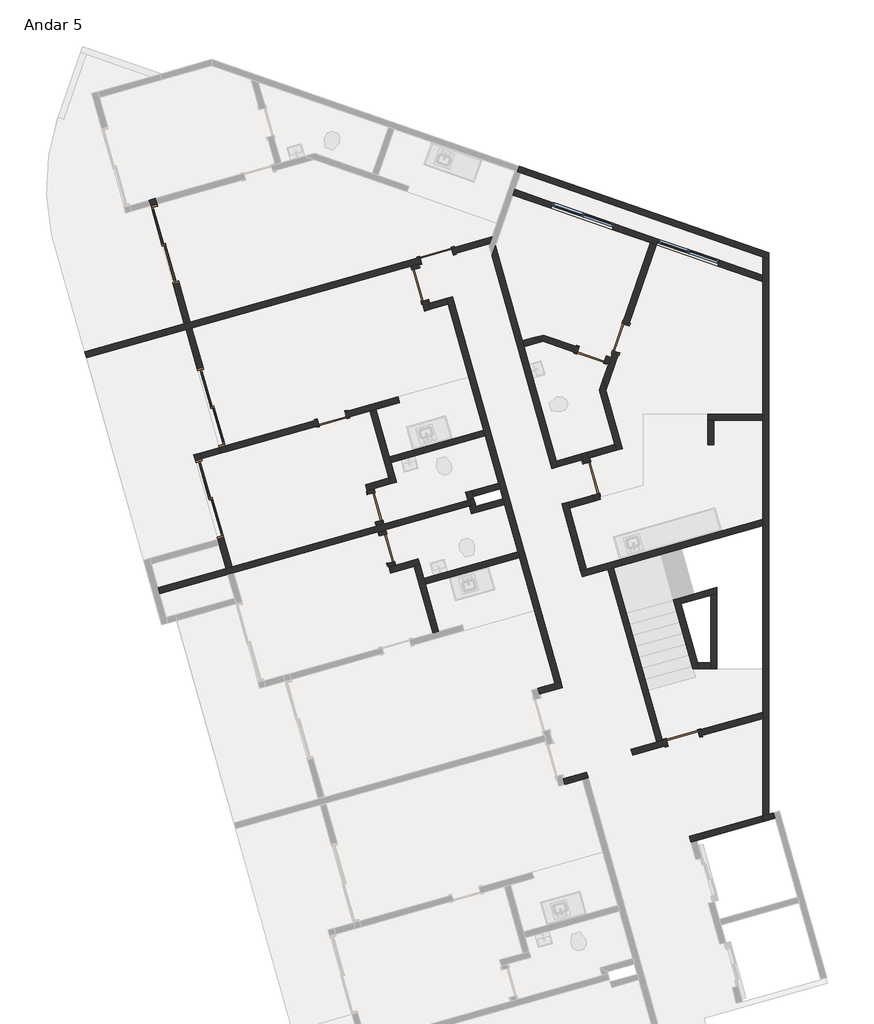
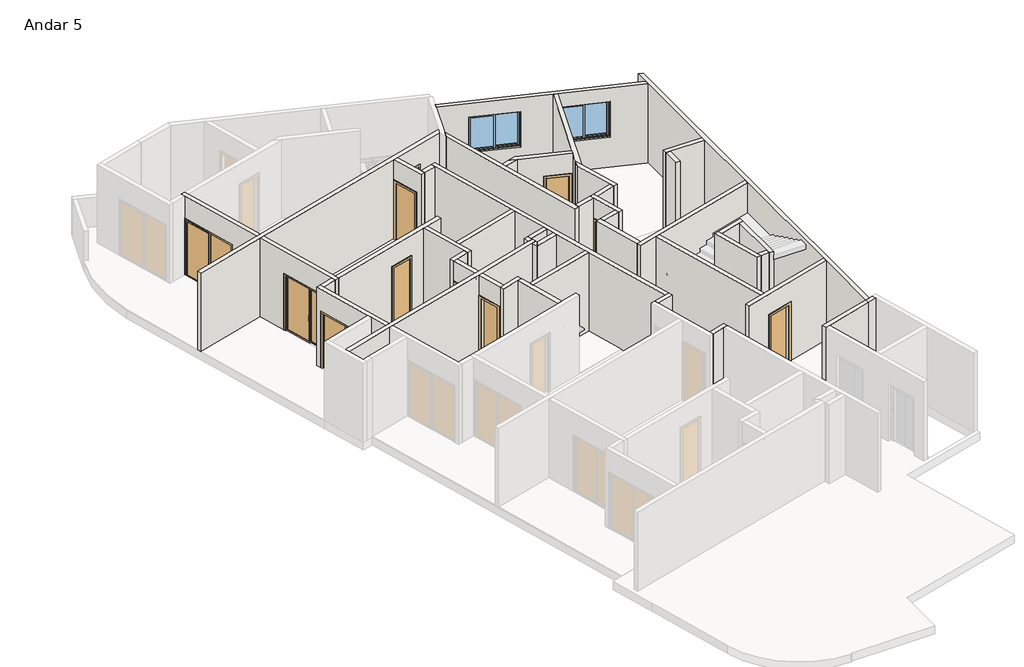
# One storey, part 2 of 3: 48 walls, 12 doors, 2 windows.
"""IFC4 building model written with IfcOpenShell, lengths in millimetres."""

from ifc_helpers import new_model, si_unit, frame, origin, place, context, project, spatial, polyline, outline, extrude, faceted_brep, transform, mapped, element, save
from components import p2_80cm_9d4be4ef, p2_80cm_083652d6, p3_70cm_ef4d15e3, p3_70cm_0a698c7c, p4_correr_200cm_eaaa0877, jx_160cm_e9e36a0c

model = new_model("IFC4")

# Units and contexts
model_context = context("Model", 3, world=origin())
ifc_project = project(units=[si_unit("LENGTHUNIT", "METRE", prefix="MILLI")], contexts=[model_context])

# Site, building, storey
site = spatial("IfcSite", under=ifc_project)
building = spatial("IfcBuilding", under=site)
storey = spatial("IfcBuildingStorey", under=building, Name="Andar 5", Elevation=65250.0)

# Doors
placement = place(None, origin())
p2_80cm_shape = p2_80cm_9d4be4ef(model_context)
element("IfcDoor", 1, ObjectType="M_Folha única1 : P2 - 80CM", at=placement, inside=storey, context=model_context, shape_type="MappedRepresentation", body=[
    mapped(p2_80cm_shape, transform((-83145.1128896, 30941.0402894, 65250.0), x_axis=(-0.9623628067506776, -0.2717679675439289, 0.0), y_axis=(0.2717679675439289, -0.9623628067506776, 0.0), z_axis=(0.0, 0.0, 1.0))),
])
element("IfcDoor", 2, ObjectType="M_Folha única1 : P2 - 80CM", at=placement, inside=storey, context=model_context, shape_type="MappedRepresentation", body=[
    mapped(p2_80cm_shape, transform((-79349.4097406, 25479.1041247, 65250.0), x_axis=(-0.27176796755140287, 0.962362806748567, 0.0), y_axis=(-0.962362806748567, -0.27176796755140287, 0.0), z_axis=(0.0, 0.0, 1.0))),
])
p2_80cm_2_shape = p2_80cm_083652d6(model_context)
element("IfcDoor", 3, ObjectType="M_Folha única1 : P2 - 80CM", at=placement, inside=storey, context=model_context, shape_type="MappedRepresentation", body=[
    mapped(p2_80cm_2_shape, transform((-83542.2049222, 30231.4150941, 65250.0), x_axis=(-0.2717679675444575, 0.9623628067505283, 0.0), y_axis=(-0.9623628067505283, -0.2717679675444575, 0.0), z_axis=(0.0, 0.0, 1.0))),
])
p3_70cm_shape = p3_70cm_ef4d15e3(model_context)
element("IfcDoor", 4, ObjectType="M_Folha única1 : P3 - 70CM", at=placement, inside=storey, context=model_context, shape_type="MappedRepresentation", body=[
    mapped(p3_70cm_shape, transform((-84650.97864, 24774.7108835, 65250.0), x_axis=(0.2717679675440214, -0.9623628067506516, 0.0), y_axis=(0.9623628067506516, 0.2717679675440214, 0.0), z_axis=(0.0, 0.0, 1.0))),
])
p3_70cm_2_shape = p3_70cm_0a698c7c(model_context)
element("IfcDoor", 5, ObjectType="M_Folha única1 : P3 - 70CM", at=placement, inside=storey, context=model_context, shape_type="MappedRepresentation", body=[
    mapped(p3_70cm_2_shape, transform((-84365.6222741, 23764.2299364, 65250.0), x_axis=(-0.2717679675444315, 0.9623628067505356, 0.0), y_axis=(-0.9623628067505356, -0.2717679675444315, 0.0), z_axis=(0.0, 0.0, 1.0))),
])
element("IfcDoor", 6, ObjectType="M_Folha única1 : P3 - 70CM", at=placement, inside=storey, context=model_context, shape_type="MappedRepresentation", body=[
    mapped(p3_70cm_2_shape, transform((-85705.4317558, 26944.8211633, 65250.0), x_axis=(0.9623628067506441, 0.2717679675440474, 0.0), y_axis=(-0.2717679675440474, 0.9623628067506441, 0.0), z_axis=(0.0, 0.0, 1.0))),
])
element("IfcDoor", 7, ObjectType="M_Folha única1 : P3 - 70CM", at=placement, inside=storey, context=model_context, shape_type="MappedRepresentation", body=[
    mapped(p3_70cm_2_shape, transform((-79346.1223746, 28509.6973665, 65250.0), x_axis=(0.9449109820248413, -0.32732741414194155, 0.0), y_axis=(0.32732741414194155, 0.9449109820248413, 0.0), z_axis=(0.0, 0.0, 1.0))),
])
element("IfcDoor", 8, ObjectType="M_Folha única1 : P3 - 70CM", at=placement, inside=storey, context=model_context, shape_type="MappedRepresentation", body=[
    mapped(p3_70cm_2_shape, transform((-78626.5662556, 28921.8732895, 65250.0), x_axis=(-0.32732741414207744, -0.9449109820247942, 0.0), y_axis=(0.9449109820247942, -0.32732741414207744, 0.0), z_axis=(0.0, 0.0, 1.0))),
])
p4_correr_200cm_shape = p4_correr_200cm_eaaa0877(model_context)
element("IfcDoor", 9, ObjectType="Porta de correr dupla envidraçada sem revestimento : P4 - CORRER - 200CM", at=placement, inside=storey, context=model_context, shape_type="MappedRepresentation", body=[
    mapped(p4_correr_200cm_shape, transform((-89799.7974026, 31217.9316171, 65250.0), x_axis=(0.27176796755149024, -0.9623628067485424, 0.0), y_axis=(0.9623628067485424, 0.27176796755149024, 0.0), z_axis=(0.0, 0.0, 1.0))),
])
element("IfcDoor", 10, ObjectType="Porta de correr dupla envidraçada sem revestimento : P4 - CORRER - 200CM", at=placement, inside=storey, context=model_context, shape_type="MappedRepresentation", body=[
    mapped(p4_correr_200cm_shape, transform((-88671.9603372, 27224.125969, 65250.0), x_axis=(-0.27176796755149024, 0.9623628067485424, 0.0), y_axis=(-0.9623628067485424, -0.27176796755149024, 0.0), z_axis=(0.0, 0.0, 1.0))),
])
element("IfcDoor", 11, ObjectType="Porta de correr dupla envidraçada sem revestimento : P4 - CORRER - 200CM", at=placement, inside=storey, context=model_context, shape_type="MappedRepresentation", body=[
    mapped(p4_correr_200cm_shape, transform((-88709.3738038, 24979.4758572, 65250.0), x_axis=(-0.2717679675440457, 0.9623628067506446, 0.0), y_axis=(-0.9623628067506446, -0.2717679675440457, 0.0), z_axis=(0.0, 0.0, 1.0))),
])
element("IfcDoor", 12, ObjectType="M_Folha única1 : PCF1 - 80CM", at=placement, inside=storey, context=model_context, shape_type="MappedRepresentation", body=[
    mapped(p2_80cm_shape, transform((-77103.5502958, 19127.1105693, 65250.0), x_axis=(-0.9623628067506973, -0.2717679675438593, 0.0), y_axis=(0.2717679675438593, -0.9623628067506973, 0.0), z_axis=(0.0, 0.0, 1.0))),
])

# Walls
element("IfcWall", 13, ObjectType="Básica .15 -  Interna", at=placement, inside=storey, context=model_context, shape_type="Brep", body=[
    faceted_brep([(-82901.0804648, 29892.9118737, 65250.0), (-82860.3152697, 29748.5574527, 65250.0), (-81990.6577736, 26668.9964711, 65250.0), (-81949.8925784, 26524.6420501, 65250.0), (-81623.7710174, 25369.806682, 65250.0), (-81583.0058223, 25225.452261, 65250.0), (-81515.0638304, 24984.8615593, 65250.0), (-81474.2986352, 24840.5071383, 65250.0), (-81148.1770742, 23685.6717702, 65250.0), (-81107.4118791, 23541.3173492, 65250.0), (-80237.7543829, 20461.7563676, 65250.0), (-80237.7543829, 20461.7563676, 68150.0), (-81107.4118791, 23541.3173492, 68150.0), (-81148.1770742, 23685.6717702, 68150.0), (-81474.2986352, 24840.5071383, 68150.0), (-81515.0638304, 24984.8615593, 68150.0), (-81583.0058223, 25225.452261, 68150.0), (-81623.7710174, 25369.806682, 68150.0), (-81949.8925784, 26524.6420501, 68150.0), (-81990.6577736, 26668.9964711, 68150.0), (-82860.3152697, 29748.5574527, 68150.0), (-82901.0804648, 29892.9118737, 68150.0), (-82756.7260438, 29933.6770689, 65250.0), (-82756.7260438, 29933.6770689, 68150.0), (-80093.3999619, 20502.5215627, 68150.0), (-80093.3999619, 20502.5215627, 65250.0)], [[[0, 1, 2, 3, 4, 5, 6, 7, 8, 9, 10, 11, 12, 13, 14, 15, 16, 17, 18, 19, 20, 21]], [[22, 23, 24, 25]], [[10, 9, 8, 7, 6, 5, 4, 3, 2, 1, 0, 22, 25]], [[21, 20, 19, 18, 17, 16, 15, 14, 13, 12, 11, 24, 23]], [[0, 21, 23, 22]], [[11, 10, 25, 24]]]),
])
element("IfcWall", 14, ObjectType="Básica .15 -  Interna", at=placement, inside=storey, context=model_context, shape_type="Brep", body=[
    faceted_brep([(-83750.2661164, 30692.2138999, 65250.0), (-83723.0893197, 30595.9776193, 65250.0), (-83723.0893197, 30595.9776193, 67350.0), (-83505.6749457, 29826.0873739, 67350.0), (-83505.6749457, 29826.0873739, 65250.0), (-83437.7329538, 29585.4966722, 65250.0), (-83437.7329538, 29585.4966722, 68150.0), (-83750.2661164, 30692.2138999, 68150.0), (-83578.7348987, 30636.7428144, 67350.0), (-83578.7348987, 30636.7428144, 65250.0), (-83605.9116954, 30732.9790951, 65250.0), (-83605.9116954, 30732.9790951, 68150.0), (-83334.1437279, 29770.6162883, 68150.0), (-83293.3785328, 29626.2618673, 68150.0), (-83293.3785328, 29626.2618673, 65250.0), (-83334.1437279, 29770.6162883, 65250.0), (-83361.3205246, 29866.852569, 65250.0), (-83361.3205246, 29866.852569, 67350.0)], [[[0, 1, 2, 3, 4, 5, 6, 7]], [[8, 9, 10, 11, 12, 13, 14, 15, 16, 17]], [[10, 9, 1, 0]], [[16, 15, 14, 5, 4]], [[7, 6, 13, 12, 11]], [[6, 5, 14, 13]], [[0, 7, 11, 10]], [[2, 1, 9, 8]], [[3, 2, 8, 17]], [[4, 3, 17, 16]]]),
])
element("IfcWall", 15, ObjectType="Básica .15 -  Interna", at=placement, inside=storey, context=model_context, shape_type="SweptSolid", body=[
    extrude(outline(polyline([(-82860.3152697, 29748.5574527), (-83293.3785328, 29626.2618673), (-83334.1437279, 29770.6162883), (-82901.0804648, 29892.9118737), (-82860.3152697, 29748.5574527)])), frame((0.0, 0.0, 65250.0), z_axis=(0.0, 0.0, 1.0), x_axis=(1.0, 0.0, 0.0)), (0.0, 0.0, 1.0), 2900.0),
])
element("IfcWall", 16, ObjectType="Básica .15 -  Interna", at=placement, inside=storey, context=model_context, shape_type="Brep", body=[
    faceted_brep([(-80093.3999619, 20502.5215627, 65250.0), (-80237.7543829, 20461.7563676, 65250.0), (-80670.817646, 20339.4607822, 65250.0), (-80670.817646, 20339.4607822, 68150.0), (-80237.7543829, 20461.7563676, 68150.0), (-80093.3999619, 20502.5215627, 68150.0), (-80052.6347668, 20358.1671417, 65250.0), (-80052.6347668, 20358.1671417, 68150.0), (-80630.0524508, 20195.1063612, 68150.0), (-80630.0524508, 20195.1063612, 65250.0)], [[[0, 1, 2, 3, 4, 5]], [[6, 7, 8, 9]], [[2, 1, 0, 6, 9]], [[5, 4, 3, 8, 7]], [[3, 2, 9, 8]], [[0, 5, 7, 6]]]),
])
element("IfcWall", 17, ObjectType="Básica .15 -  Interna", at=placement, inside=storey, context=model_context, shape_type="Brep", body=[
    faceted_brep([(-80004.9861255, 17981.6719056, 65250.0), (-79571.9228624, 18103.967491, 65250.0), (-79427.5684414, 18144.7326862, 65250.0), (-79427.5684414, 18144.7326862, 68150.0), (-79571.9228624, 18103.967491, 68150.0), (-80004.9861255, 17981.6719056, 68150.0), (-80045.7513206, 18126.0263266, 65250.0), (-80045.7513206, 18126.0263266, 68150.0), (-79468.3336366, 18289.0871072, 68150.0), (-79468.3336366, 18289.0871072, 65250.0)], [[[0, 1, 2, 3, 4, 5]], [[6, 7, 8, 9]], [[2, 1, 0, 6, 9]], [[5, 4, 3, 8, 7]], [[3, 2, 9, 8]], [[0, 5, 7, 6]]]),
])
element("IfcWall", 18, ObjectType="Básica .15 -  Interna", at=placement, inside=storey, context=model_context, shape_type="Brep", body=[
    faceted_brep([(-88305.9570711, 23274.9583478, 68150.0), (-88469.0178517, 23852.3760319, 68150.0), (-88509.7830468, 23996.7304529, 68150.0), (-89094.084177, 26065.8104874, 68150.0), (-89094.084177, 26065.8104874, 65250.0), (-89053.3189819, 25921.4560664, 65250.0), (-89053.3189819, 25921.4560664, 67350.0), (-88509.7830468, 23996.7304529, 67350.0), (-88509.7830468, 23996.7304529, 65250.0), (-88469.0178517, 23852.3760319, 65250.0), (-88305.9570711, 23274.9583478, 65250.0), (-88949.729756, 26106.5756825, 68150.0), (-88908.9645609, 25962.2212615, 68150.0), (-88161.6026501, 23315.723543, 68150.0), (-88161.6026501, 23315.723543, 65250.0), (-88365.4286258, 24037.495648, 65250.0), (-88365.4286258, 24037.495648, 67350.0), (-88908.9645609, 25962.2212615, 67350.0), (-88908.9645609, 25962.2212615, 65250.0), (-88949.729756, 26106.5756825, 65250.0)], [[[0, 1, 2, 3, 4, 5, 6, 7, 8, 9, 10]], [[11, 12, 13, 14, 15, 16, 17, 18, 19]], [[4, 19, 18, 5]], [[14, 10, 9, 8, 15]], [[3, 2, 1, 0, 13, 12, 11]], [[4, 3, 11, 19]], [[0, 10, 14, 13]], [[17, 6, 5, 18]], [[6, 17, 16, 7]], [[7, 16, 15, 8]]]),
])
element("IfcWall", 19, ObjectType="Básica .15 -  Interna", at=placement, inside=storey, context=model_context, shape_type="Brep", body=[
    faceted_brep([(-89143.3190618, 29169.2341801, 68150.0), (-88328.0151592, 26282.1457598, 68150.0), (-88287.249964, 26137.7913388, 68150.0), (-88287.249964, 26137.7913388, 65250.0), (-88328.0151592, 26282.1457598, 65250.0), (-88328.0151592, 26282.1457598, 67350.0), (-88871.5510943, 28206.8713733, 67350.0), (-88871.5510943, 28206.8713733, 65250.0), (-89143.3190618, 29169.2341801, 65250.0), (-88431.604385, 26097.0261437, 68150.0), (-88472.3695802, 26241.3805647, 68150.0), (-89287.6734828, 29128.468985, 68150.0), (-89287.6734828, 29128.468985, 65250.0), (-89015.9055153, 28166.1061782, 65250.0), (-89015.9055153, 28166.1061782, 67350.0), (-88472.3695802, 26241.3805647, 67350.0), (-88472.3695802, 26241.3805647, 65250.0), (-88431.604385, 26097.0261437, 65250.0)], [[[0, 1, 2, 3, 4, 5, 6, 7, 8]], [[9, 10, 11, 12, 13, 14, 15, 16, 17]], [[3, 17, 16, 4]], [[12, 8, 7, 13]], [[2, 1, 0, 11, 10, 9]], [[3, 2, 9, 17]], [[0, 8, 12, 11]], [[6, 14, 13, 7]], [[14, 6, 5, 15]], [[15, 5, 4, 16]]]),
])
element("IfcWall", 20, ObjectType="Básica .15 -  Interna", at=placement, inside=storey, context=model_context, shape_type="Brep", body=[
    faceted_brep([(-76904.7538909, 16570.3643175, 65250.0), (-76760.3994699, 16611.1295126, 65250.0), (-75147.8282189, 17066.5141226, 65250.0), (-75147.8282189, 17066.5141226, 68150.0), (-76760.3994699, 16611.1295126, 68150.0), (-76904.7538909, 16570.3643175, 68150.0), (-76945.5190861, 16714.7187385, 65250.0), (-76945.5190861, 16714.7187385, 68150.0), (-75147.8282189, 17222.3804954, 68150.0), (-75147.8282189, 17222.3804954, 65250.0)], [[[0, 1, 2, 3, 4, 5]], [[6, 7, 8, 9]], [[2, 1, 0, 6, 9]], [[5, 4, 3, 8, 7]], [[0, 5, 7, 6]], [[3, 2, 9, 8]]]),
])
element("IfcWall", 21, ObjectType="Básica .15 -  Interna", at=placement, inside=storey, context=model_context, shape_type="Brep", body=[
    faceted_brep([(-79570.9048554, 23078.5590693, 65250.0), (-78948.2127609, 23254.4051886, 65250.0), (-78803.8582924, 23295.1703972, 65250.0), (-75147.8282189, 24327.6207947, 65250.0), (-75147.8282189, 24327.6207947, 68150.0), (-78803.8582924, 23295.1703972, 68150.0), (-78948.2127609, 23254.4051886, 68150.0), (-79570.9048554, 23078.5590693, 68150.0), (-79611.6700506, 23222.9134903, 65250.0), (-79611.6700506, 23222.9134903, 68150.0), (-79467.3156296, 23263.6786855, 68150.0), (-75147.8282189, 24483.4871675, 68150.0), (-75147.8282189, 24483.4871675, 65250.0), (-79467.3156296, 23263.6786855, 65250.0)], [[[0, 1, 2, 3, 4, 5, 6, 7]], [[8, 9, 10, 11, 12, 13]], [[3, 2, 1, 0, 8, 13, 12]], [[7, 6, 5, 4, 11, 10, 9]], [[0, 7, 9, 8]], [[4, 3, 12, 11]]]),
])
element("IfcWall", 22, ObjectType="Básica .15 -  Interna", at=placement, inside=storey, context=model_context, shape_type="SweptSolid", body=[
    extrude(outline(polyline([(-77749.4687652, 19022.6385875), (-78948.2127609, 23254.4051886), (-78803.8582924, 23295.1703972), (-77605.1142967, 19063.4037961), (-77749.4687652, 19022.6385875)])), frame((0.0, 0.0, 65250.0), z_axis=(0.0, 0.0, 1.0), x_axis=(1.0, 0.0, 0.0)), (0.0, 0.0, 1.0), 2900.0),
])
element("IfcWall", 23, ObjectType="Básica .15 -  Interna", at=placement, inside=storey, context=model_context, shape_type="Brep", body=[
    faceted_brep([(-77508.878016, 19090.5805928, 67350.0), (-77508.878016, 19090.5805928, 65250.0), (-77605.1142967, 19063.4037961, 65250.0), (-77749.4687652, 19022.6385875, 65250.0), (-78375.5945972, 18845.8227925, 65250.0), (-78375.5945972, 18845.8227925, 68150.0), (-77749.4687652, 19022.6385875, 68150.0), (-77605.1142967, 19063.4037961, 68150.0), (-75147.8282189, 19757.3329862, 68150.0), (-75147.8282189, 19757.3329862, 65250.0), (-76738.9877706, 19307.9949669, 65250.0), (-76738.9877706, 19307.9949669, 67350.0), (-78334.829402, 18701.4683715, 65250.0), (-77468.1128209, 18946.2261718, 65250.0), (-77468.1128209, 18946.2261718, 67350.0), (-76698.2225755, 19163.6405459, 67350.0), (-76698.2225755, 19163.6405459, 65250.0), (-75147.8282189, 19601.4666134, 65250.0), (-75147.8282189, 19601.4666134, 68150.0), (-78334.829402, 18701.4683715, 68150.0)], [[[0, 1, 2, 3, 4, 5, 6, 7, 8, 9, 10, 11]], [[12, 13, 14, 15, 16, 17, 18, 19]], [[10, 9, 17, 16]], [[4, 3, 2, 1, 13, 12]], [[5, 4, 12, 19]], [[8, 7, 6, 5, 19, 18]], [[14, 13, 1, 0]], [[15, 14, 0, 11]], [[16, 15, 11, 10]], [[9, 8, 18, 17]]]),
])
element("IfcWall", 24, ObjectType="Básica .15 - Externa", at=placement, inside=storey, context=model_context, shape_type="Brep", body=[
    faceted_brep([(-75147.8282189, 30909.9128092, 68150.0), (-75147.8282189, 30909.9128092, 65250.0), (-75147.8282189, 30461.6117638, 65250.0), (-75147.8282189, 30302.8666514, 65250.0), (-75147.8282189, 27060.8243598, 65250.0), (-75147.8282189, 26910.8243598, 65250.0), (-75147.8282189, 24483.4871675, 65250.0), (-75147.8282189, 24327.6207947, 65250.0), (-75147.8282189, 19757.3329862, 65250.0), (-75147.8282189, 19601.4666134, 65250.0), (-75147.8282189, 17222.3804954, 65250.0), (-75147.8282189, 17222.3804954, 68150.0), (-75147.8282189, 19601.4666134, 68150.0), (-75147.8282189, 19757.3329862, 68150.0), (-75147.8282189, 24327.6207947, 68150.0), (-75147.8282189, 24483.4871675, 68150.0), (-75147.8282189, 26910.8243598, 68150.0), (-75147.8282189, 27060.8243598, 68150.0), (-75147.8282189, 30302.8666514, 68150.0), (-75147.8282189, 30461.6117638, 68150.0), (-74997.8282189, 30857.9511821, 65250.0), (-74997.8282189, 30857.9511821, 66550.0), (-74997.8282189, 30857.9511821, 67850.0), (-74997.8282189, 30857.9511821, 68150.0), (-74997.8282189, 17264.7399828, 68150.0), (-74997.8282189, 17264.7399828, 65250.0)], [[[0, 1, 2, 3, 4, 5, 6, 7, 8, 9, 10, 11, 12, 13, 14, 15, 16, 17, 18, 19]], [[20, 21, 22, 23, 24, 25]], [[10, 9, 8, 7, 6, 5, 4, 3, 2, 1, 20, 25]], [[0, 19, 18, 17, 16, 15, 14, 13, 12, 11, 24, 23]], [[11, 10, 25, 24]], [[0, 23, 22, 21, 20, 1]]]),
])
element("IfcWall", 25, ObjectType="Básica .15 -  Interna", at=placement, inside=storey, context=model_context, shape_type="Brep", body=[
    faceted_brep([(-80073.6755954, 24858.9302618, 65250.0), (-79611.6700506, 23222.9134903, 65250.0), (-79611.6700506, 23222.9134903, 68150.0), (-80073.6755954, 24858.9302618, 68150.0), (-79929.3211744, 24899.695457, 65250.0), (-79929.3211744, 24899.695457, 68150.0), (-79888.5559793, 24755.3410359, 68150.0), (-79467.3156296, 23263.6786855, 68150.0), (-79467.3156296, 23263.6786855, 65250.0), (-79888.5559793, 24755.3410359, 65250.0)], [[[0, 1, 2, 3]], [[4, 5, 6, 7, 8, 9]], [[1, 0, 4, 9, 8]], [[3, 2, 7, 6, 5]], [[0, 3, 5, 4]], [[2, 1, 8, 7]]]),
])
element("IfcWall", 26, ObjectType="Básica .15 -  Interna", at=placement, inside=storey, context=model_context, shape_type="Brep", body=[
    faceted_brep([(-79888.5559793, 24755.3410359, 65250.0), (-79272.1145689, 24929.4219834, 65250.0), (-79272.1145689, 24929.4219834, 68150.0), (-79888.5559793, 24755.3410359, 68150.0), (-79929.3211744, 24899.695457, 65250.0), (-79929.3211744, 24899.695457, 68150.0), (-79312.8797641, 25073.7764044, 68150.0), (-79312.8797641, 25073.7764044, 67350.0), (-79312.8797641, 25073.7764044, 65250.0)], [[[0, 1, 2, 3]], [[4, 5, 6, 7, 8]], [[1, 0, 4, 8]], [[3, 2, 6, 5]], [[0, 3, 5, 4]], [[2, 1, 8, 7, 6]]]),
])
element("IfcWall", 27, ObjectType="Básica .15 -  Interna", at=placement, inside=storey, context=model_context, shape_type="Brep", body=[
    faceted_brep([(-79598.23613, 26084.2573515, 65250.0), (-79557.4709349, 25939.9029305, 65250.0), (-79530.2941381, 25843.6666498, 65250.0), (-79530.2941381, 25843.6666498, 67350.0), (-79312.8797641, 25073.7764044, 67350.0), (-79312.8797641, 25073.7764044, 65250.0), (-79272.1145689, 24929.4219834, 65250.0), (-79272.1145689, 24929.4219834, 68150.0), (-79312.8797641, 25073.7764044, 68150.0), (-79557.4709349, 25939.9029305, 68150.0), (-79598.23613, 26084.2573515, 68150.0), (-79385.9397171, 25884.4318449, 67350.0), (-79385.9397171, 25884.4318449, 65250.0), (-79413.1165138, 25980.6681256, 65250.0), (-79453.881709, 26125.0225466, 65250.0), (-79453.881709, 26125.0225466, 68150.0), (-79413.1165138, 25980.6681256, 68150.0), (-79127.7601479, 24970.1871785, 68150.0), (-79127.7601479, 24970.1871785, 65250.0), (-79168.5253431, 25114.5415995, 65250.0), (-79168.5253431, 25114.5415995, 67350.0)], [[[0, 1, 2, 3, 4, 5, 6, 7, 8, 9, 10]], [[11, 12, 13, 14, 15, 16, 17, 18, 19, 20]], [[19, 18, 6, 5]], [[14, 13, 12, 2, 1, 0]], [[10, 9, 8, 7, 17, 16, 15]], [[7, 6, 18, 17]], [[0, 10, 15, 14]], [[3, 2, 12, 11]], [[4, 3, 11, 20]], [[5, 4, 20, 19]]]),
])
element("IfcWall", 28, ObjectType="Básica .15 -  Interna", at=placement, inside=storey, context=model_context, shape_type="Brep", body=[
    faceted_brep([(-81789.2550074, 30934.0017027, 65250.0), (-80318.2667662, 25725.0567879, 65250.0), (-80318.2667662, 25725.0567879, 68150.0), (-81789.2550074, 30934.0017027, 68150.0), (-81703.3880158, 31181.8778654, 65250.0), (-81703.3880158, 31181.8778654, 68150.0), (-81045.1503443, 28850.9797144, 68150.0), (-81004.3851492, 28706.6252933, 68150.0), (-80214.6775403, 25910.176404, 68150.0), (-80173.9123452, 25765.821983, 68150.0), (-80173.9123452, 25765.821983, 65250.0), (-80214.6775403, 25910.176404, 65250.0), (-81004.3851492, 28706.6252933, 65250.0), (-81045.1503443, 28850.9797144, 65250.0)], [[[0, 1, 2, 3]], [[4, 5, 6, 7, 8, 9, 10, 11, 12, 13]], [[1, 0, 4, 13, 12, 11, 10]], [[3, 2, 9, 8, 7, 6, 5]], [[0, 3, 5, 4]], [[2, 1, 10, 9]]]),
])
element("IfcWall", 29, ObjectType="Básica .15 -  Interna", at=placement, inside=storey, context=model_context, shape_type="Brep", body=[
    faceted_brep([(-88908.9645609, 25962.2212615, 65250.0), (-88431.604385, 26097.0261437, 65250.0), (-88431.604385, 26097.0261437, 68150.0), (-88908.9645609, 25962.2212615, 68150.0), (-88908.9645609, 25962.2212615, 67350.0), (-88949.729756, 26106.5756825, 65250.0), (-88949.729756, 26106.5756825, 68150.0), (-88472.3695802, 26241.3805647, 68150.0), (-88472.3695802, 26241.3805647, 65250.0)], [[[0, 1, 2, 3, 4]], [[5, 6, 7, 8]], [[1, 0, 5, 8]], [[3, 2, 7, 6]], [[0, 4, 3, 6, 5]], [[2, 1, 8, 7]]]),
])
element("IfcWall", 30, ObjectType="Básica .15 -  Interna", at=placement, inside=storey, context=model_context, shape_type="SweptSolid", body=[
    extrude(outline(polyline([(-79557.4709349, 25939.9029305), (-80173.9123452, 25765.821983), (-80214.6775403, 25910.176404), (-79598.23613, 26084.2573515), (-79557.4709349, 25939.9029305)])), frame((0.0, 0.0, 65250.0), z_axis=(0.0, 0.0, 1.0), x_axis=(1.0, 0.0, 0.0)), (0.0, 0.0, 1.0), 2900.0),
])
element("IfcWall", 31, ObjectType="Básica .15 -  Interna", at=placement, inside=storey, context=model_context, shape_type="Brep", body=[
    faceted_brep([(-91725.2428613, 28440.1077234, 65250.0), (-89287.6734828, 29128.468985, 65250.0), (-89143.3190618, 29169.2341801, 65250.0), (-83750.2661164, 30692.2138999, 65250.0), (-83605.9116954, 30732.9790951, 65250.0), (-83509.6754148, 30760.1558918, 65250.0), (-83509.6754148, 30760.1558918, 67350.0), (-82739.7851694, 30977.5702659, 67350.0), (-82739.7851694, 30977.5702659, 65250.0), (-81845.4155775, 31230.1371819, 65250.0), (-81845.4155775, 31230.1371819, 68150.0), (-83605.9116954, 30732.9790951, 68150.0), (-83750.2661164, 30692.2138999, 68150.0), (-89143.3190618, 29169.2341801, 68150.0), (-89287.6734828, 29128.468985, 68150.0), (-91725.2428613, 28440.1077234, 68150.0), (-83550.4406099, 30904.5103128, 67350.0), (-83550.4406099, 30904.5103128, 65250.0), (-89184.084257, 29313.5886011, 65250.0), (-89328.438678, 29272.823406, 65250.0), (-91766.0080564, 28584.4621444, 65250.0), (-91766.0080564, 28584.4621444, 68150.0), (-89328.438678, 29272.823406, 68150.0), (-89184.084257, 29313.5886011, 68150.0), (-81785.5670817, 31402.9045654, 68150.0), (-81785.5670817, 31402.9045654, 65250.0), (-82780.5503645, 31121.9246869, 65250.0), (-82780.5503645, 31121.9246869, 67350.0)], [[[0, 1, 2, 3, 4, 5, 6, 7, 8, 9, 10, 11, 12, 13, 14, 15]], [[16, 17, 18, 19, 20, 21, 22, 23, 24, 25, 26, 27]], [[26, 25, 9, 8]], [[20, 19, 18, 17, 5, 4, 3, 2, 1, 0]], [[15, 14, 13, 12, 11, 10, 24, 23, 22, 21]], [[0, 15, 21, 20]], [[10, 9, 25, 24]], [[6, 5, 17, 16]], [[7, 6, 16, 27]], [[8, 7, 27, 26]]]),
])
element("IfcWall", 32, ObjectType="Básica .15 -  Interna", at=placement, inside=storey, context=model_context, shape_type="Brep", body=[
    faceted_brep([(-90040.1533547, 32345.0314424, 68150.0), (-89999.3881596, 32200.6770214, 68150.0), (-89184.084257, 29313.5886011, 68150.0), (-89184.084257, 29313.5886011, 65250.0), (-89455.8522245, 30275.9514079, 65250.0), (-89455.8522245, 30275.9514079, 67350.0), (-89999.3881596, 32200.6770214, 67350.0), (-89999.3881596, 32200.6770214, 65250.0), (-90040.1533547, 32345.0314424, 65250.0), (-89328.438678, 29272.823406, 68150.0), (-90143.7425806, 32159.9118263, 68150.0), (-90184.5077758, 32304.2662473, 68150.0), (-90184.5077758, 32304.2662473, 65250.0), (-90143.7425806, 32159.9118262, 65250.0), (-90143.7425806, 32159.9118262, 67350.0), (-89600.2066455, 30235.1862128, 67350.0), (-89600.2066455, 30235.1862128, 65250.0), (-89328.438678, 29272.823406, 65250.0)], [[[0, 1, 2, 3, 4, 5, 6, 7, 8]], [[9, 10, 11, 12, 13, 14, 15, 16, 17]], [[12, 8, 7, 13]], [[3, 17, 16, 4]], [[2, 1, 0, 11, 10, 9]], [[0, 8, 12, 11]], [[3, 2, 9, 17]], [[15, 5, 4, 16]], [[5, 15, 14, 6]], [[6, 14, 13, 7]]]),
])
element("IfcWall", 33, ObjectType="Básica .15 -  Interna", at=placement, inside=storey, context=model_context, shape_type="Brep", body=[
    faceted_brep([(-89936.6922366, 22658.5779377, 65250.0), (-88265.191876, 23130.6039268, 65250.0), (-88120.837455, 23171.369122, 65250.0), (-84560.09507, 24176.9106019, 65250.0), (-84415.740649, 24217.675797, 65250.0), (-82192.6825654, 24845.459802, 65250.0), (-82192.6825654, 24845.459802, 68150.0), (-84415.740649, 24217.675797, 68150.0), (-84560.09507, 24176.9106019, 68150.0), (-88120.837455, 23171.369122, 68150.0), (-88265.191876, 23130.6039268, 68150.0), (-89936.6922366, 22658.5779377, 68150.0), (-89977.4574318, 22802.9323587, 65250.0), (-89977.4574318, 22802.9323587, 68150.0), (-88305.9570711, 23274.9583478, 68150.0), (-88161.6026501, 23315.723543, 68150.0), (-84600.8602651, 24321.2650229, 68150.0), (-84456.5058441, 24362.030218, 68150.0), (-82233.4477605, 24989.814223, 68150.0), (-82233.4477605, 24989.814223, 65250.0), (-84456.5058441, 24362.030218, 65250.0), (-84600.8602651, 24321.2650229, 65250.0), (-88161.6026501, 23315.723543, 65250.0), (-88305.9570711, 23274.9583478, 65250.0)], [[[0, 1, 2, 3, 4, 5, 6, 7, 8, 9, 10, 11]], [[12, 13, 14, 15, 16, 17, 18, 19, 20, 21, 22, 23]], [[5, 4, 3, 2, 1, 0, 12, 23, 22, 21, 20, 19]], [[6, 5, 19, 18]], [[11, 10, 9, 8, 7, 6, 18, 17, 16, 15, 14, 13]], [[0, 11, 13, 12]]]),
])
element("IfcWall", 34, ObjectType="Básica .15 -  Interna", at=placement, inside=storey, context=model_context, shape_type="Brep", body=[
    faceted_brep([(-81272.8781344, 32424.6503839, 65250.0), (-77897.5766162, 31255.4093243, 65250.0), (-77755.8399689, 31206.3102121, 65250.0), (-75147.8282189, 30302.8666514, 65250.0), (-75147.8282189, 30302.8666514, 68150.0), (-77755.8399689, 31206.3102121, 68150.0), (-77897.5766162, 31255.4093243, 68150.0), (-81272.8781344, 32424.6503839, 68150.0), (-78829.2985897, 31578.1679228, 66350.0), (-80341.1561609, 32101.8917854, 66350.0), (-80341.1561609, 32101.8917854, 67650.0), (-78829.2985897, 31578.1679228, 67650.0), (-76243.9823976, 30682.5863495, 66350.0), (-77755.8399689, 31206.3102121, 66350.0), (-77755.8399689, 31206.3102121, 67650.0), (-76243.9823976, 30682.5863495, 67650.0), (-81223.7790223, 32566.3870312, 65250.0), (-81223.7790223, 32566.3870312, 68150.0), (-75147.8282189, 30461.6117638, 68150.0), (-75147.8282189, 30461.6117638, 65250.0), (-78780.1994776, 31719.9045701, 66350.0), (-78780.1994776, 31719.9045701, 67650.0), (-80292.0570488, 32243.6284327, 67650.0), (-80292.0570488, 32243.6284327, 66350.0), (-76194.8832855, 30824.3229968, 66350.0), (-76194.8832855, 30824.3229968, 67650.0), (-77706.7408568, 31348.0468595, 67650.0), (-77706.7408568, 31348.0468595, 66350.0)], [[[0, 1, 2, 3, 4, 5, 6, 7], [8, 9, 10, 11], [12, 13, 14, 15]], [[16, 17, 18, 19], [20, 21, 22, 23], [24, 25, 26, 27]], [[3, 2, 1, 0, 16, 19]], [[7, 6, 5, 4, 18, 17]], [[0, 7, 17, 16]], [[21, 20, 8, 11]], [[22, 21, 11, 10]], [[23, 22, 10, 9]], [[20, 23, 9, 8]], [[25, 24, 12, 15]], [[26, 25, 15, 14]], [[27, 26, 14, 13]], [[24, 27, 13, 12]], [[4, 3, 19, 18]]]),
])
element("IfcWall", 35, ObjectType="Básica .15 - Externa", at=placement, inside=storey, context=model_context, shape_type="Brep", body=[
    faceted_brep([(-81156.3583355, 32991.3328194, 66550.0), (-81156.3583355, 32991.3328194, 65250.0), (-81156.3583355, 32991.3328194, 64950.0), (-81085.1216301, 32966.655652, 64950.0), (-74997.8282189, 30857.9511821, 64950.0), (-74997.8282189, 30857.9511821, 65250.0), (-74997.8282189, 30857.9511821, 66550.0), (-81085.1216301, 32966.655652, 66550.0), (-81107.2592234, 33133.0694667, 64950.0), (-81107.2592234, 33133.0694667, 65250.0), (-81107.2592234, 33133.0694667, 66550.0), (-81036.022518, 33108.3922993, 66550.0), (-74997.8282189, 31016.6962944, 66550.0), (-74997.8282189, 31016.6962944, 64950.0), (-81036.022518, 33108.3922993, 64950.0)], [[[0, 1, 2, 3, 4, 5, 6, 7]], [[8, 9, 10, 11, 12, 13, 14]], [[4, 3, 2, 8, 14, 13]], [[0, 7, 6, 12, 11, 10]], [[0, 10, 9, 8, 2, 1]], [[4, 13, 12, 6, 5]]]),
])
element("IfcWall", 36, ObjectType="Básica .15 -  Interna", at=placement, inside=storey, context=model_context, shape_type="SweptSolid", body=[
    extrude(outline(polyline([(-82179.094167, 24797.3416617), (-81515.0638304, 24984.8615593), (-81474.2986352, 24840.5071383), (-82282.6833929, 24612.2220455), (-82179.094167, 24797.3416617)])), frame((0.0, 0.0, 65250.0), z_axis=(0.0, 0.0, 1.0), x_axis=(1.0, 0.0, 0.0)), (0.0, 0.0, 1.0), 2900.0),
])
element("IfcWall", 37, ObjectType="Básica .15 -  Interna", at=placement, inside=storey, context=model_context, shape_type="SweptSolid", body=[
    extrude(outline(polyline([(-82192.6825654, 24845.459802), (-82179.094167, 24797.3416617), (-82282.6833929, 24612.2220455), (-82337.0369864, 24804.6946069), (-82192.6825654, 24845.459802)])), frame((0.0, 0.0, 65250.0), z_axis=(0.0, 0.0, 1.0), x_axis=(1.0, 0.0, 0.0)), (0.0, 0.0, 1.0), 2900.0),
])
element("IfcWall", 38, ObjectType="Básica .15 -  Interna", at=placement, inside=storey, context=model_context, shape_type="Brep", body=[
    faceted_brep([(-83593.7317942, 23514.6100515, 65250.0), (-84171.1494782, 23351.5492709, 65250.0), (-84315.5038992, 23310.7840758, 65250.0), (-84315.5038992, 23310.7840758, 68150.0), (-84171.1494782, 23351.5492709, 68150.0), (-83593.7317942, 23514.6100515, 68150.0), (-83552.966599, 23370.2556304, 65250.0), (-83552.966599, 23370.2556304, 68150.0), (-83697.32102, 23329.4904353, 68150.0), (-84274.7387041, 23166.4296548, 68150.0), (-84274.7387041, 23166.4296548, 65250.0), (-83697.32102, 23329.4904353, 65250.0)], [[[0, 1, 2, 3, 4, 5]], [[6, 7, 8, 9, 10, 11]], [[2, 1, 0, 6, 11, 10]], [[5, 4, 3, 9, 8, 7]], [[0, 5, 7, 6]], [[3, 2, 10, 9]]]),
])
element("IfcWall", 39, ObjectType="Básica .15 -  Interna", at=placement, inside=storey, context=model_context, shape_type="Brep", body=[
    faceted_brep([(-83090.9610542, 21734.238859, 65250.0), (-83417.0826153, 22889.0742271, 65250.0), (-83457.8478104, 23033.4286481, 65250.0), (-83552.966599, 23370.2556304, 65250.0), (-83552.966599, 23370.2556304, 68150.0), (-83457.8478104, 23033.4286481, 68150.0), (-83417.0826153, 22889.0742271, 68150.0), (-83090.9610542, 21734.238859, 68150.0), (-83235.3154752, 21693.4736638, 65250.0), (-83235.3154752, 21693.4736638, 68150.0), (-83697.32102, 23329.4904353, 68150.0), (-83697.32102, 23329.4904353, 65250.0)], [[[0, 1, 2, 3, 4, 5, 6, 7]], [[8, 9, 10, 11]], [[3, 2, 1, 0, 8, 11]], [[7, 6, 5, 4, 10, 9]], [[0, 7, 9, 8]], [[4, 3, 11, 10]]]),
])
element("IfcWall", 40, ObjectType="Básica .15 -  Interna", at=placement, inside=storey, context=model_context, shape_type="SweptSolid", body=[
    extrude(outline(polyline([(-83457.8478104, 23033.4286481), (-81148.1770742, 23685.6717702), (-81107.4118791, 23541.3173492), (-83417.0826153, 22889.0742271), (-83457.8478104, 23033.4286481)])), frame((0.0, 0.0, 65250.0), z_axis=(0.0, 0.0, 1.0), x_axis=(1.0, 0.0, 0.0)), (0.0, 0.0, 1.0), 2900.0),
])
element("IfcWall", 41, ObjectType="Básica .15 -  Interna", at=placement, inside=storey, context=model_context, shape_type="SweptSolid", body=[
    extrude(outline(polyline([(150.0, 0.0), (250.0, 0.0), (250.0, -2100.0), (950.0, -2100.0), (950.0, 0.0), (1050.0, 0.0), (1050.0, -2900.0), (150.0, -2900.0), (150.0, 0.0)])), frame((-84600.8602651, 24321.2650229, 65250.0), z_axis=(0.9623628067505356, 0.2717679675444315, 0.0), x_axis=(0.2717679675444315, -0.9623628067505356, 0.0)), (0.0, 0.0, 1.0), 150.0),
])
element("IfcWall", 42, ObjectType="Básica .15 -  Interna", at=placement, inside=storey, context=model_context, shape_type="Brep", body=[
    faceted_brep([(-84770.8044918, 27130.823522, 65250.0), (-84308.798947, 25494.8067505, 65250.0), (-84268.0337519, 25350.4523295, 65250.0), (-84268.0337519, 25350.4523295, 68150.0), (-84308.798947, 25494.8067505, 68150.0), (-84770.8044918, 27130.823522, 68150.0), (-84626.4500708, 27171.5887171, 65250.0), (-84626.4500708, 27171.5887171, 68150.0), (-84300.3285098, 26016.753349, 68150.0), (-84259.5633146, 25872.398928, 68150.0), (-84123.6793309, 25391.2175246, 68150.0), (-84123.6793309, 25391.2175246, 65250.0), (-84259.5633146, 25872.398928, 65250.0), (-84300.3285098, 26016.753349, 65250.0)], [[[0, 1, 2, 3, 4, 5]], [[6, 7, 8, 9, 10, 11, 12, 13]], [[2, 1, 0, 6, 13, 12, 11]], [[5, 4, 3, 10, 9, 8, 7]], [[3, 2, 11, 10]], [[0, 5, 7, 6]]]),
])
element("IfcWall", 43, ObjectType="Básica .15 -  Interna", at=placement, inside=storey, context=model_context, shape_type="SweptSolid", body=[
    extrude(outline(polyline([(-84300.3285098, 26016.753349), (-81990.6577736, 26668.9964711), (-81949.8925784, 26524.6420501), (-84259.5633146, 25872.398928), (-84300.3285098, 26016.753349)])), frame((0.0, 0.0, 65250.0), z_axis=(0.0, 0.0, 1.0), x_axis=(1.0, 0.0, 0.0)), (0.0, 0.0, 1.0), 2900.0),
])
element("IfcWall", 44, ObjectType="Básica .15 -  Interna", at=placement, inside=storey, context=model_context, shape_type="Brep", body=[
    faceted_brep([(-84308.798947, 25494.8067505, 65250.0), (-84886.2166311, 25331.74597, 65250.0), (-84886.2166311, 25331.74597, 68150.0), (-84308.798947, 25494.8067505, 68150.0), (-84268.0337519, 25350.4523295, 65250.0), (-84268.0337519, 25350.4523295, 68150.0), (-84701.0970149, 25228.1567441, 68150.0), (-84845.4514359, 25187.391549, 68150.0), (-84845.4514359, 25187.391549, 65250.0), (-84701.0970149, 25228.1567441, 65250.0)], [[[0, 1, 2, 3]], [[4, 5, 6, 7, 8, 9]], [[1, 0, 4, 9, 8]], [[3, 2, 7, 6, 5]], [[2, 1, 8, 7]], [[0, 3, 5, 4]]]),
])
element("IfcWall", 45, ObjectType="Básica .15 -  Interna", at=placement, inside=storey, context=model_context, shape_type="SweptSolid", body=[
    extrude(outline(polyline([(800.0, -2100.0), (800.0, 0.0), (900.0, 0.0), (900.0, -2900.0), (0.0, -2900.0), (0.0, 0.0), (100.0, 0.0), (100.0, -2100.0), (800.0, -2100.0)])), frame((-84845.4514359, 25187.391549, 65250.0), z_axis=(0.9623628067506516, 0.2717679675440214, 0.0), x_axis=(0.2717679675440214, -0.9623628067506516, 0.0)), (0.0, 0.0, 1.0), 150.0),
])
element("IfcWall", 46, ObjectType="Básica .15 -  Interna", at=placement, inside=storey, context=model_context, shape_type="Brep", body=[
    faceted_brep([(-82432.1557751, 25141.5215893, 65250.0), (-82377.8021816, 24949.0490279, 65250.0), (-82377.8021816, 24949.0490279, 68150.0), (-82432.1557751, 25141.5215893, 68150.0), (-82287.801354, 25182.2867844, 65250.0), (-82287.801354, 25182.2867844, 68150.0), (-82247.0361589, 25037.9323634, 68150.0), (-82233.4477605, 24989.814223, 68150.0), (-82233.4477605, 24989.814223, 65250.0), (-82247.0361589, 25037.9323634, 65250.0)], [[[0, 1, 2, 3]], [[4, 5, 6, 7, 8, 9]], [[1, 0, 4, 9, 8]], [[2, 1, 8, 7]], [[3, 2, 7, 6, 5]], [[0, 3, 5, 4]]]),
])
element("IfcWall", 47, ObjectType="Básica .15 -  Interna", at=placement, inside=storey, context=model_context, shape_type="SweptSolid", body=[
    extrude(outline(polyline([(-81583.0058223, 25225.452261), (-82247.0361589, 25037.9323634), (-82287.801354, 25182.2867844), (-81623.7710174, 25369.806682), (-81583.0058223, 25225.452261)])), frame((0.0, 0.0, 65250.0), z_axis=(0.0, 0.0, 1.0), x_axis=(1.0, 0.0, 0.0)), (0.0, 0.0, 1.0), 2900.0),
])
element("IfcWall", 48, ObjectType="Básica .15 -  Interna", at=placement, inside=storey, context=model_context, shape_type="Brep", body=[
    faceted_brep([(-76493.6479314, 26910.8243598, 65250.0), (-76343.6479314, 26910.8243598, 65250.0), (-75147.8282189, 26910.8243598, 65250.0), (-75147.8282189, 26910.8243598, 68150.0), (-76343.6479314, 26910.8243598, 68150.0), (-76493.6479314, 26910.8243598, 68150.0), (-76493.6479314, 27060.8243598, 65250.0), (-76493.6479314, 27060.8243598, 68150.0), (-75147.8282189, 27060.8243598, 68150.0), (-75147.8282189, 27060.8243598, 65250.0)], [[[0, 1, 2, 3, 4, 5]], [[6, 7, 8, 9]], [[2, 1, 0, 6, 9]], [[5, 4, 3, 8, 7]], [[0, 5, 7, 6]], [[3, 2, 9, 8]]]),
])
element("IfcWall", 49, ObjectType="Básica .15 -  Interna", at=placement, inside=storey, context=model_context, shape_type="SweptSolid", body=[
    extrude(outline(polyline([(-76343.6479314, 26910.8243598), (-76343.6479314, 26310.8243598), (-76493.6479314, 26310.8243598), (-76493.6479314, 26910.8243598), (-76343.6479314, 26910.8243598)])), frame((0.0, 0.0, 65250.0), z_axis=(0.0, 0.0, 1.0), x_axis=(1.0, 0.0, 0.0)), (0.0, 0.0, 1.0), 2900.0),
])
element("IfcWall", 50, ObjectType="Básica .15 -  Interna", at=placement, inside=storey, context=model_context, shape_type="Brep", body=[
    faceted_brep([(-78877.464657, 28426.7218055, 65250.0), (-78990.8539749, 28466.0010952, 65250.0), (-78990.8539749, 28466.0010952, 67350.0), (-79652.2916623, 28695.1302851, 67350.0), (-79652.2916623, 28695.1302851, 65250.0), (-80525.6718652, 28997.6786614, 65250.0), (-80525.6718652, 28997.6786614, 68150.0), (-78877.464657, 28426.7218055, 68150.0), (-79039.953087, 28324.2644479, 67350.0), (-79039.953087, 28324.2644479, 65250.0), (-78926.5637691, 28284.9851582, 65250.0), (-78926.5637691, 28284.9851582, 68150.0), (-80530.2499593, 28840.5194505, 68150.0), (-80778.126122, 28926.3864421, 68150.0), (-80778.126122, 28926.3864421, 65250.0), (-80530.2499593, 28840.5194505, 65250.0), (-79701.3907744, 28553.3936378, 65250.0), (-79701.3907744, 28553.3936378, 67350.0)], [[[0, 1, 2, 3, 4, 5, 6, 7]], [[8, 9, 10, 11, 12, 13, 14, 15, 16, 17]], [[10, 9, 1, 0]], [[16, 15, 14, 5, 4]], [[7, 6, 13, 12, 11]], [[2, 1, 9, 8]], [[3, 2, 8, 17]], [[4, 3, 17, 16]], [[6, 5, 14, 13]], [[0, 7, 11, 10]]]),
])
element("IfcWall", 51, ObjectType="Básica .15 -  Interna", at=placement, inside=storey, context=model_context, shape_type="SweptSolid", body=[
    extrude(outline(polyline([(-81045.1503443, 28850.9797144), (-80778.126122, 28926.3864421), (-80530.2499593, 28840.5194505), (-81004.3851492, 28706.6252933), (-81045.1503443, 28850.9797144)])), frame((0.0, 0.0, 65250.0), z_axis=(0.0, 0.0, 1.0), x_axis=(1.0, 0.0, 0.0)), (0.0, 0.0, 1.0), 2900.0),
])
element("IfcWall", 52, ObjectType="Básica .15 -  Interna", at=placement, inside=storey, context=model_context, shape_type="Brep", body=[
    faceted_brep([(-79146.9727346, 27648.7205404, 65250.0), (-78771.1333302, 26317.8283554, 65250.0), (-78730.3681351, 26173.4739343, 65250.0), (-78730.3681351, 26173.4739343, 68150.0), (-78771.1333302, 26317.8283554, 68150.0), (-79146.9727346, 27648.7205404, 68150.0), (-79061.105743, 27896.5967032, 65250.0), (-79061.105743, 27896.5967032, 68150.0), (-78989.8135237, 27644.1424464, 68150.0), (-78586.013714, 26214.2391295, 68150.0), (-78586.013714, 26214.2391295, 65250.0), (-78989.8135237, 27644.1424464, 65250.0)], [[[0, 1, 2, 3, 4, 5]], [[6, 7, 8, 9, 10, 11]], [[2, 1, 0, 6, 11, 10]], [[5, 4, 3, 9, 8, 7]], [[0, 5, 7, 6]], [[3, 2, 10, 9]]]),
])
element("IfcWall", 53, ObjectType="Básica .15 -  Interna", at=placement, inside=storey, context=model_context, shape_type="Brep", body=[
    faceted_brep([(-78811.9991742, 28615.7040019, 67350.0), (-78811.9991742, 28615.7040019, 65250.0), (-78877.464657, 28426.7218055, 65250.0), (-78926.5637691, 28284.9851582, 65250.0), (-79061.105743, 27896.5967032, 65250.0), (-79061.105743, 27896.5967032, 68150.0), (-78926.5637691, 28284.9851582, 68150.0), (-78877.464657, 28426.7218055, 68150.0), (-77897.5766162, 31255.4093243, 68150.0), (-77897.5766162, 31255.4093243, 65250.0), (-78582.8699843, 29277.1416893, 65250.0), (-78582.8699843, 29277.1416893, 67350.0), (-78989.8135237, 27644.1424464, 65250.0), (-78670.2625269, 28566.6048898, 65250.0), (-78670.2625269, 28566.6048898, 67350.0), (-78441.133337, 29228.0425772, 67350.0), (-78441.133337, 29228.0425772, 65250.0), (-77755.8399689, 31206.3102121, 65250.0), (-77755.8399689, 31206.3102121, 66350.0), (-77755.8399689, 31206.3102121, 67650.0), (-77755.8399689, 31206.3102121, 68150.0), (-78989.8135237, 27644.1424464, 68150.0)], [[[0, 1, 2, 3, 4, 5, 6, 7, 8, 9, 10, 11]], [[12, 13, 14, 15, 16, 17, 18, 19, 20, 21]], [[10, 9, 17, 16]], [[4, 3, 2, 1, 13, 12]], [[8, 7, 6, 5, 21, 20]], [[14, 13, 1, 0]], [[15, 14, 0, 11]], [[16, 15, 11, 10]], [[5, 4, 12, 21]], [[9, 8, 20, 19, 18, 17]]]),
])
element("IfcWall", 54, ObjectType="Básica .15 -  Interna", at=placement, inside=storey, context=model_context, shape_type="Brep", body=[
    faceted_brep([(-85348.2221759, 26967.7627414, 67350.0), (-85348.2221759, 26967.7627414, 65250.0), (-84770.8044918, 27130.823522, 65250.0), (-84626.4500708, 27171.5887171, 65250.0), (-84049.0323868, 27334.6494976, 65250.0), (-84049.0323868, 27334.6494976, 68150.0), (-84626.4500708, 27171.5887171, 68150.0), (-84770.8044918, 27130.823522, 68150.0), (-88287.249964, 26137.7913388, 68150.0), (-88287.249964, 26137.7913388, 65250.0), (-86021.8761406, 26777.5251642, 65250.0), (-86021.8761406, 26777.5251642, 67350.0), (-84089.7975819, 27479.0039186, 65250.0), (-85388.987371, 27112.1171625, 65250.0), (-85388.987371, 27112.1171625, 67350.0), (-86062.6413357, 26921.8795852, 67350.0), (-86062.6413357, 26921.8795852, 65250.0), (-88328.0151592, 26282.1457598, 65250.0), (-88328.0151592, 26282.1457598, 68150.0), (-84089.7975819, 27479.0039186, 68150.0)], [[[0, 1, 2, 3, 4, 5, 6, 7, 8, 9, 10, 11]], [[12, 13, 14, 15, 16, 17, 18, 19]], [[10, 9, 17, 16]], [[4, 3, 2, 1, 13, 12]], [[5, 4, 12, 19]], [[8, 7, 6, 5, 19, 18]], [[16, 15, 11, 10]], [[15, 14, 0, 11]], [[14, 13, 1, 0]], [[9, 8, 18, 17]]]),
])
element("IfcWall", 55, ObjectType="Básica .15 -  Interna", at=placement, inside=storey, context=model_context, shape_type="SweptSolid", body=[
    extrude(outline(polyline([(-78730.3681351, 26173.4739343), (-79413.1165138, 25980.6681256), (-79453.881709, 26125.0225466), (-78771.1333302, 26317.8283554), (-78730.3681351, 26173.4739343)])), frame((0.0, 0.0, 65250.0), z_axis=(0.0, 0.0, 1.0), x_axis=(1.0, 0.0, 0.0)), (0.0, 0.0, 1.0), 2900.0),
])
element("IfcWall", 56, ObjectType="Básica .15 -  Interna", at=placement, inside=storey, context=model_context, shape_type="Brep", body=[
    faceted_brep([(-76703.5854218, 20819.1154254, 65250.0), (-76745.9449092, 20969.1154254, 65250.0), (-77152.5348621, 22408.8989724, 65250.0), (-77193.3000572, 22553.2533934, 65250.0), (-77193.3000572, 22553.2533934, 68150.0), (-77152.5348621, 22408.8989724, 68150.0), (-76745.9449092, 20969.1154254, 68150.0), (-76703.5854218, 20819.1154254, 68150.0), (-76859.4517946, 20819.1154254, 65250.0), (-76859.4517946, 20819.1154254, 68150.0), (-77337.6544782, 22512.4881983, 68150.0), (-77337.6544782, 22512.4881983, 65250.0)], [[[0, 1, 2, 3, 4, 5, 6, 7]], [[8, 9, 10, 11]], [[3, 2, 1, 0, 8, 11]], [[7, 6, 5, 4, 10, 9]], [[4, 3, 11, 10]], [[0, 7, 9, 8]]]),
])
element("IfcWall", 57, ObjectType="Básica .15 -  Interna", at=placement, inside=storey, context=model_context, shape_type="Brep", body=[
    faceted_brep([(-77152.5348621, 22408.8989724, 65250.0), (-76425.2862396, 22614.2714979, 65250.0), (-76275.2862396, 22656.6309852, 65250.0), (-76275.2862396, 22656.6309852, 68150.0), (-76425.2862396, 22614.2714979, 68150.0), (-77152.5348621, 22408.8989724, 68150.0), (-77193.3000572, 22553.2533934, 65250.0), (-77193.3000572, 22553.2533934, 68150.0), (-76275.2862396, 22812.497358, 68150.0), (-76275.2862396, 22812.497358, 65250.0)], [[[0, 1, 2, 3, 4, 5]], [[6, 7, 8, 9]], [[2, 1, 0, 6, 9]], [[5, 4, 3, 8, 7]], [[0, 5, 7, 6]], [[3, 2, 9, 8]]]),
])
element("IfcWall", 58, ObjectType="Básica .15 -  Interna", at=placement, inside=storey, context=model_context, shape_type="Brep", body=[
    faceted_brep([(-76425.2862396, 22614.2714979, 65250.0), (-76425.2862396, 20969.1154254, 65250.0), (-76425.2862396, 20819.1154254, 65250.0), (-76425.2862396, 20819.1154254, 68150.0), (-76425.2862396, 20969.1154254, 68150.0), (-76425.2862396, 22614.2714979, 68150.0), (-76275.2862396, 22656.6309852, 65250.0), (-76275.2862396, 22656.6309852, 68150.0), (-76275.2862396, 20819.1154254, 68150.0), (-76275.2862396, 20819.1154254, 65250.0)], [[[0, 1, 2, 3, 4, 5]], [[6, 7, 8, 9]], [[2, 1, 0, 6, 9]], [[5, 4, 3, 8, 7]], [[0, 5, 7, 6]], [[3, 2, 9, 8]]]),
])
element("IfcWall", 59, ObjectType="Básica .15 -  Interna", at=placement, inside=storey, context=model_context, shape_type="SweptSolid", body=[
    extrude(outline(polyline([(-76745.9449092, 20969.1154254), (-76425.2862396, 20969.1154254), (-76425.2862396, 20819.1154254), (-76703.5854218, 20819.1154254), (-76745.9449092, 20969.1154254)])), frame((0.0, 0.0, 65250.0), z_axis=(0.0, 0.0, 1.0), x_axis=(1.0, 0.0, 0.0)), (0.0, 0.0, 1.0), 2900.0),
])
element("IfcWall", 60, ObjectType="Básica .15 - Externa", at=placement, inside=storey, context=model_context, shape_type="Brep", body=[
    faceted_brep([(-75147.8282189, 17066.5141226, 65250.0), (-74840.4856705, 17153.3066079, 65250.0), (-74840.4856705, 17153.3066079, 68150.0), (-75147.8282189, 17066.5141226, 68150.0), (-75147.8282189, 17222.3804954, 65250.0), (-75147.8282189, 17222.3804954, 68150.0), (-74997.8282189, 17264.7399828, 68150.0), (-74881.2508656, 17297.6610289, 68150.0), (-74881.2508656, 17297.6610289, 65250.0), (-74997.8282189, 17264.7399828, 65250.0)], [[[0, 1, 2, 3]], [[4, 5, 6, 7, 8, 9]], [[1, 0, 4, 9, 8]], [[3, 2, 7, 6, 5]], [[2, 1, 8, 7]], [[0, 3, 5, 4]]]),
])

# Windows
jx_160cm_shape = jx_160cm_e9e36a0c(model_context)
element("IfcWindow", 61, ObjectType="Janela de correr - 2 Painéis : JX - 160CM", at=placement, inside=storey, context=model_context, shape_type="MappedRepresentation", body=[
    mapped(jx_160cm_shape, transform((-79560.6778192, 31910.8981777, 65700.0), x_axis=(-0.9449109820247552, 0.3273274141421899, 0.0), y_axis=(-0.3273274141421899, -0.9449109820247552, 0.0), z_axis=(0.0, 0.0, 1.0))),
])
element("IfcWindow", 62, ObjectType="Janela de correr - 2 Painéis : JX - 160CM", at=placement, inside=storey, context=model_context, shape_type="MappedRepresentation", body=[
    mapped(jx_160cm_shape, transform((-76975.3616272, 31015.3166045, 65700.0), x_axis=(-0.9449109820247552, 0.3273274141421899, 0.0), y_axis=(-0.3273274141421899, -0.9449109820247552, 0.0), z_axis=(0.0, 0.0, 1.0))),
])

save(model, "model.ifc")
